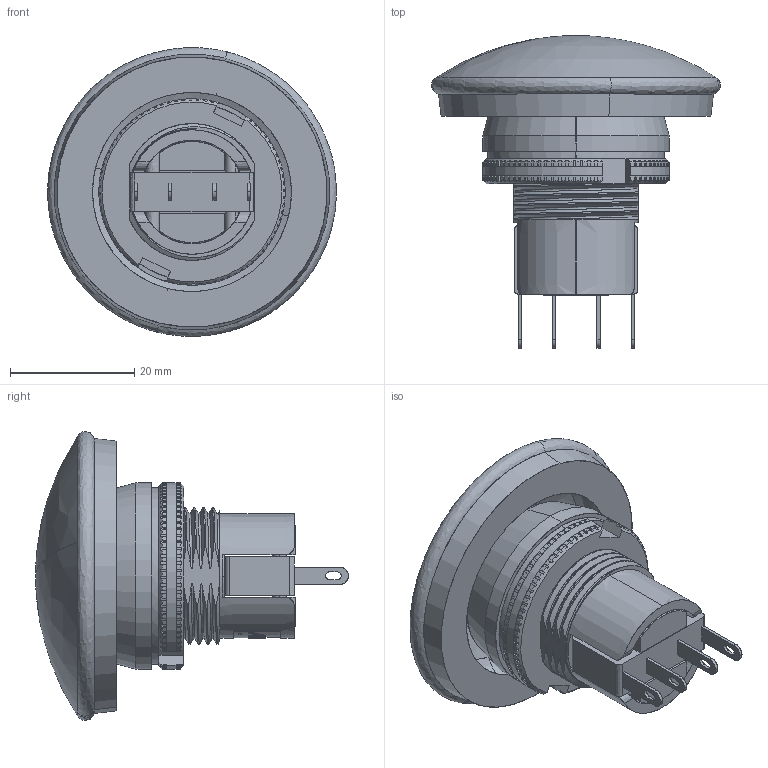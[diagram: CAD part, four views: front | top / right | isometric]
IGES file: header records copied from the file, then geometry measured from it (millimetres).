
Start section: SolidWorks IGES file using analytic representation for surfaces
Global section: file name: U:\Live\Downloaded files\76-9440439088\76-9440439088.IGS; native system: SolidWorks 2011; preprocessor: SolidWorks 2011; author: Mark_B; date: 111025.135005; units: millimetre
Bounding box: 46.5 x 50.35 x 46.47 mm (x, y, z)
Surface area: 12192.3 mm2 (no closed solid volume)
Topology: 0 solids, 0 shells, 849 faces, 7237 edges, 7236 vertices
Faces by surface type: bspline 452, revolution 397
